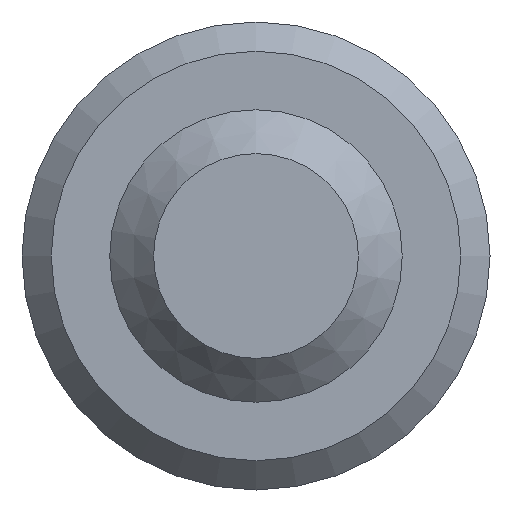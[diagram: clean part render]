
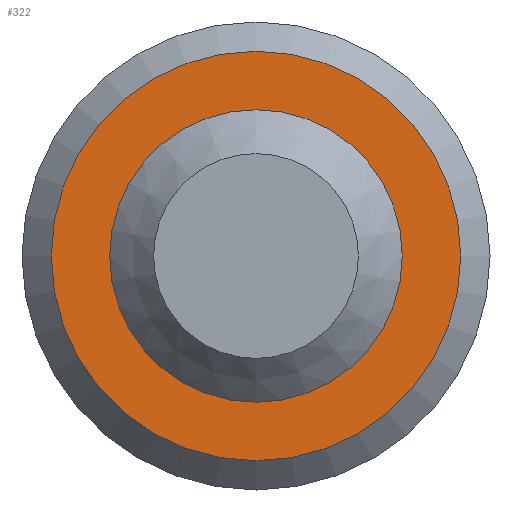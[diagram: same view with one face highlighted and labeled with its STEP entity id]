
A CAD part, front view. The second image highlights one B-rep face of the part: STEP entity #322.
In plain terms, the highlighted planar face has unit normal (0, -1, 0).
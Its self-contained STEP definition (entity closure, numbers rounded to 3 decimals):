
#4 = EDGE_CURVE ( 'NONE', #98, #98, #290, .T. ) ;
#22 = FACE_OUTER_BOUND ( 'NONE', #491, .T. ) ;
#92 = EDGE_CURVE ( 'NONE', #471, #471, #150, .T. ) ;
#98 = VERTEX_POINT ( 'NONE', #207 ) ;
#109 = DIRECTION ( 'NONE',  ( 0., 1., 0. ) ) ;
#140 = ORIENTED_EDGE ( 'NONE', *, *, #92, .F. ) ;
#150 = CIRCLE ( 'NONE', #351, 0.5 ) ;
#207 = CARTESIAN_POINT ( 'NONE',  ( 0., 7., 0.7 ) ) ;
#215 = CARTESIAN_POINT ( 'NONE',  ( 0., 7., 0. ) ) ;
#218 = AXIS2_PLACEMENT_3D ( 'NONE', #215, #543, #593 ) ;
#246 = PLANE ( 'NONE',  #393 ) ;
#249 = CARTESIAN_POINT ( 'NONE',  ( -0.8, 7., 0. ) ) ;
#274 = CARTESIAN_POINT ( 'NONE',  ( 0., 7., 0. ) ) ;
#290 = CIRCLE ( 'NONE', #218, 0.7 ) ;
#322 = ADVANCED_FACE ( 'NONE', ( #22, #358 ), #246, .F. ) ;
#351 = AXIS2_PLACEMENT_3D ( 'NONE', #274, #594, #415 ) ;
#358 = FACE_BOUND ( 'NONE', #582, .T. ) ;
#393 = AXIS2_PLACEMENT_3D ( 'NONE', #249, #109, #529 ) ;
#415 = DIRECTION ( 'NONE',  ( 0., 0., -1. ) ) ;
#443 = CARTESIAN_POINT ( 'NONE',  ( 0., 7., -0.5 ) ) ;
#471 = VERTEX_POINT ( 'NONE', #443 ) ;
#491 = EDGE_LOOP ( 'NONE', ( #530 ) ) ;
#529 = DIRECTION ( 'NONE',  ( 0., 0., 1. ) ) ;
#530 = ORIENTED_EDGE ( 'NONE', *, *, #4, .T. ) ;
#543 = DIRECTION ( 'NONE',  ( 0., -1., 0. ) ) ;
#582 = EDGE_LOOP ( 'NONE', ( #140 ) ) ;
#593 = DIRECTION ( 'NONE',  ( 0., 0., 1. ) ) ;
#594 = DIRECTION ( 'NONE',  ( 0., -1., 0. ) ) ;
